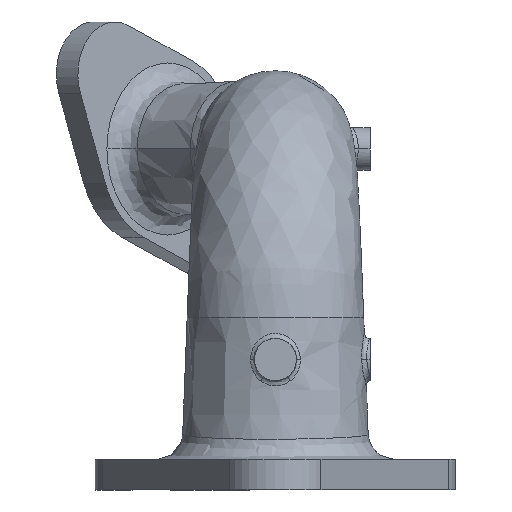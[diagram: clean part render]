
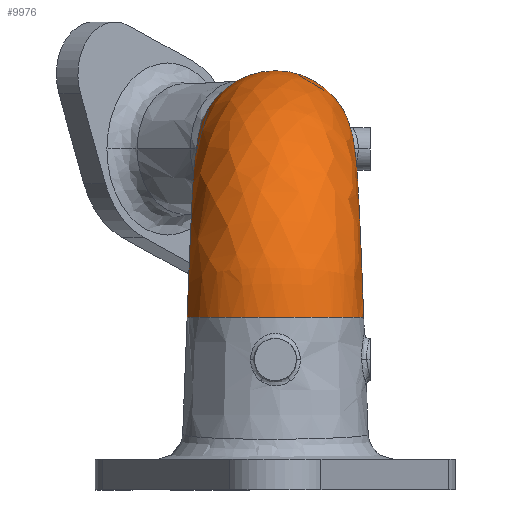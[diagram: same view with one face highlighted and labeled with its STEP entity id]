
A CAD part, left-side view. The second image highlights one B-rep face of the part: STEP entity #9976.
In plain terms, the highlighted free-form (B-spline) face has degree [5, 5] with [6, 9] control points.
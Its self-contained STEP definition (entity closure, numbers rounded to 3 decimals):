
#4711=CARTESIAN_POINT(' ',(0.,-53.27,101.6));
#4712=VERTEX_POINT(' ',#4711);
#4726=CARTESIAN_POINT(' ',(0.,0.,101.6));
#4731=DIRECTION(' ',(0.,0.,-1.));
#4736=DIRECTION(' ',(0.,-1.,0.));
#4741=AXIS2_PLACEMENT_3D(' ',#4726,#4731,#4736);
#4746=CIRCLE('',#4741,53.27);
#4751=CARTESIAN_POINT(' ',(0.,53.27,101.6));
#4752=VERTEX_POINT(' ',#4751);
#4756=EDGE_CURVE(' ',#4712,#4752,#4746,.T.);
#9491=CARTESIAN_POINT(' ',(101.6,-47.175,203.2));
#9496=CARTESIAN_POINT(' ',(85.639,-47.785,203.2));
#9501=CARTESIAN_POINT(' ',(69.679,-48.394,200.066));
#9506=CARTESIAN_POINT(' ',(54.546,-49.004,193.798));
#9511=CARTESIAN_POINT(' ',(27.542,-50.223,175.658));
#9516=CARTESIAN_POINT(' ',(9.402,-51.442,148.654));
#9521=CARTESIAN_POINT(' ',(3.134,-52.051,133.521));
#9526=CARTESIAN_POINT(' ',(0.,-52.661,117.561));
#9531=CARTESIAN_POINT(' ',(0.,-53.27,101.6));
#9536=CARTESIAN_POINT(' ',(101.6,-47.175,240.94));
#9541=CARTESIAN_POINT(' ',(79.711,-47.785,241.428));
#9546=CARTESIAN_POINT(' ',(57.63,-48.394,237.617));
#9551=CARTESIAN_POINT(' ',(36.492,-49.004,229.433));
#9556=CARTESIAN_POINT(' ',(-1.609,-50.223,205.08));
#9561=CARTESIAN_POINT(' ',(-27.883,-51.442,167.816));
#9566=CARTESIAN_POINT(' ',(-37.192,-52.051,146.719));
#9571=CARTESIAN_POINT(' ',(-42.128,-52.661,124.255));
#9576=CARTESIAN_POINT(' ',(-42.616,-53.27,101.6));
#9581=CARTESIAN_POINT(' ',(101.6,-15.725,266.101));
#9586=CARTESIAN_POINT(' ',(75.758,-15.928,266.913));
#9591=CARTESIAN_POINT(' ',(49.597,-16.131,262.651));
#9596=CARTESIAN_POINT(' ',(24.457,-16.335,253.189));
#9601=CARTESIAN_POINT(' ',(-21.044,-16.741,224.695));
#9606=CARTESIAN_POINT(' ',(-52.739,-17.147,180.591));
#9611=CARTESIAN_POINT(' ',(-64.076,-17.35,155.518));
#9616=CARTESIAN_POINT(' ',(-70.214,-17.554,128.718));
#9621=CARTESIAN_POINT(' ',(-71.027,-17.757,101.6));
#9626=CARTESIAN_POINT(' ',(101.6,23.588,262.169));
#9631=CARTESIAN_POINT(' ',(76.376,23.892,262.931));
#9636=CARTESIAN_POINT(' ',(50.852,24.197,258.74));
#9641=CARTESIAN_POINT(' ',(26.337,24.502,249.477));
#9646=CARTESIAN_POINT(' ',(-18.007,25.111,221.63));
#9651=CARTESIAN_POINT(' ',(-48.855,25.721,178.595));
#9656=CARTESIAN_POINT(' ',(-59.876,26.026,154.143));
#9661=CARTESIAN_POINT(' ',(-65.826,26.33,128.021));
#9666=CARTESIAN_POINT(' ',(-66.588,26.635,101.6));
#9671=CARTESIAN_POINT(' ',(101.6,47.175,234.65));
#9676=CARTESIAN_POINT(' ',(80.699,47.785,235.057));
#9681=CARTESIAN_POINT(' ',(59.638,48.394,231.359));
#9686=CARTESIAN_POINT(' ',(39.501,49.004,223.494));
#9691=CARTESIAN_POINT(' ',(3.249,50.223,200.177));
#9696=CARTESIAN_POINT(' ',(-21.669,51.442,164.622));
#9701=CARTESIAN_POINT(' ',(-30.471,52.051,144.52));
#9706=CARTESIAN_POINT(' ',(-35.107,52.661,123.14));
#9711=CARTESIAN_POINT(' ',(-35.513,53.27,101.6));
#9716=CARTESIAN_POINT(' ',(101.6,47.175,203.2));
#9721=CARTESIAN_POINT(' ',(85.639,47.785,203.2));
#9726=CARTESIAN_POINT(' ',(69.679,48.394,200.066));
#9731=CARTESIAN_POINT(' ',(54.546,49.004,193.798));
#9736=CARTESIAN_POINT(' ',(27.542,50.223,175.658));
#9741=CARTESIAN_POINT(' ',(9.402,51.442,148.654));
#9746=CARTESIAN_POINT(' ',(3.134,52.051,133.521));
#9751=CARTESIAN_POINT(' ',(0.,52.661,117.561));
#9756=CARTESIAN_POINT(' ',(0.,53.27,101.6));
#9761=(BOUNDED_SURFACE()B_SPLINE_SURFACE(5,5,((#9491,#9496,#9501,#9506,#9511,#9516,#9521,#9526,#9531),(#9536,#9541,#9546,#9551,#9556,#9561,#9566,#9571,#9576),(#9581,#9586,#9591,#9596,#9601,#9606,#9611,#9616,#9621),(#9626,#9631,#9636,#9641,#9646,#9651,#9656,#9661,#9666),(#9671,#9676,#9681,#9686,#9691,#9696,#9701,#9706,#9711),(#9716,#9721,#9726,#9731,#9736,#9741,#9746,#9751,#9756)),.UNSPECIFIED.,.F.,.F.,.U.)B_SPLINE_SURFACE_WITH_KNOTS((6,6),(6,3,6),(124.266,248.531),(0.,79.803,159.607),.UNSPECIFIED.)GEOMETRIC_REPRESENTATION_ITEM()RATIONAL_B_SPLINE_SURFACE(((0.25,0.25,0.25,0.25,0.25,0.25,0.25,0.25,0.25),(0.25,0.25,0.25,0.25,0.25,0.25,0.25,0.25,0.25),(0.3,0.3,0.3,0.3,0.3,0.3,0.3,0.3,0.3),(0.4,0.4,0.4,0.4,0.4,0.4,0.4,0.4,0.4),(0.6,0.6,0.6,0.6,0.6,0.6,0.6,0.6,0.6),(1.,1.,1.,1.,1.,1.,1.,1.,1.)))REPRESENTATION_ITEM(' ')SURFACE());
#9766=ORIENTED_EDGE(' ',*,*,#4756,.F.);
#9771=CARTESIAN_POINT(' ',(101.6,-47.175,203.2));
#9776=CARTESIAN_POINT(' ',(90.568,-47.597,203.2));
#9781=CARTESIAN_POINT(' ',(79.539,-48.018,201.387));
#9786=CARTESIAN_POINT(' ',(58.638,-48.86,194.328));
#9791=CARTESIAN_POINT(' ',(48.77,-49.282,189.083));
#9796=CARTESIAN_POINT(' ',(31.225,-50.124,175.705));
#9801=CARTESIAN_POINT(' ',(23.552,-50.546,167.576));
#9806=CARTESIAN_POINT(' ',(11.211,-51.388,149.288));
#9811=CARTESIAN_POINT(' ',(6.545,-51.809,139.134));
#9816=CARTESIAN_POINT(' ',(1.223,-52.577,119.747));
#9821=CARTESIAN_POINT(' ',(0.,-52.924,110.674));
#9826=CARTESIAN_POINT(' ',(0.,-53.27,101.6));
#9831=B_SPLINE_CURVE_WITH_KNOTS('',3,(#9771,#9776,#9781,#9786,#9791,#9796,#9801,#9806,#9811,#9816,#9821,#9826),.UNSPECIFIED.,.F.,.U.,(4,2,2,2,2,4),(0.,0.207,0.415,0.622,0.829,1.),.UNSPECIFIED.);
#9836=CARTESIAN_POINT(' ',(101.6,-47.175,203.2));
#9837=VERTEX_POINT(' ',#9836);
#9841=EDGE_CURVE(' ',#9837,#4712,#9831,.T.);
#9846=ORIENTED_EDGE(' ',*,*,#9841,.F.);
#9851=CARTESIAN_POINT(' ',(101.6,0.,203.2));
#9856=DIRECTION(' ',(-1.,0.,0.));
#9861=DIRECTION(' ',(0.,-1.,0.));
#9866=AXIS2_PLACEMENT_3D(' ',#9851,#9856,#9861);
#9871=CIRCLE('',#9866,47.175);
#9876=CARTESIAN_POINT(' ',(101.6,47.175,203.2));
#9877=VERTEX_POINT(' ',#9876);
#9881=EDGE_CURVE(' ',#9837,#9877,#9871,.T.);
#9886=ORIENTED_EDGE(' ',*,*,#9881,.T.);
#9891=CARTESIAN_POINT(' ',(101.6,47.175,203.2));
#9896=CARTESIAN_POINT(' ',(90.568,47.597,203.2));
#9901=CARTESIAN_POINT(' ',(79.539,48.018,201.387));
#9906=CARTESIAN_POINT(' ',(58.638,48.86,194.328));
#9911=CARTESIAN_POINT(' ',(48.77,49.282,189.083));
#9916=CARTESIAN_POINT(' ',(31.225,50.124,175.705));
#9921=CARTESIAN_POINT(' ',(23.552,50.546,167.576));
#9926=CARTESIAN_POINT(' ',(11.211,51.388,149.288));
#9931=CARTESIAN_POINT(' ',(6.545,51.809,139.134));
#9936=CARTESIAN_POINT(' ',(1.223,52.577,119.747));
#9941=CARTESIAN_POINT(' ',(0.,52.924,110.674));
#9946=CARTESIAN_POINT(' ',(0.,53.27,101.6));
#9951=B_SPLINE_CURVE_WITH_KNOTS('',3,(#9891,#9896,#9901,#9906,#9911,#9916,#9921,#9926,#9931,#9936,#9941,#9946),.UNSPECIFIED.,.F.,.U.,(4,2,2,2,2,4),(0.,0.207,0.415,0.622,0.829,1.),.UNSPECIFIED.);
#9956=EDGE_CURVE(' ',#9877,#4752,#9951,.T.);
#9961=ORIENTED_EDGE(' ',*,*,#9956,.T.);
#9966=EDGE_LOOP(' ',(#9766,#9846,#9886,#9961));
#9971=FACE_OUTER_BOUND(' ',#9966,.T.);
#9976=ADVANCED_FACE('',(#9971),#9761,.T.);
